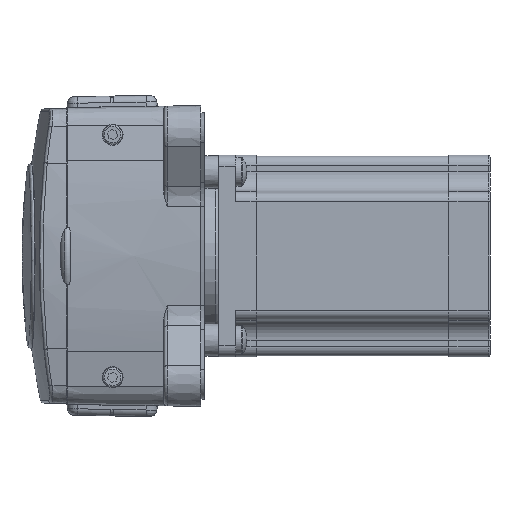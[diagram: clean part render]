
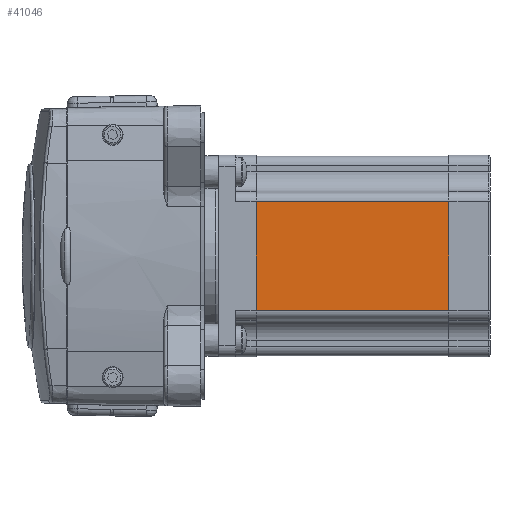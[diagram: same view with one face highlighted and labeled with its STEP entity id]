
A CAD part, front view. The second image highlights one B-rep face of the part: STEP entity #41046.
In plain terms, the highlighted planar face has unit normal (0, -1, 0).
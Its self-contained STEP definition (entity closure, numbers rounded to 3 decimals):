
#928 = VECTOR ( 'NONE', #55043, 1000. ) ;
#4556 = DIRECTION ( 'NONE',  ( 0., 0., -1. ) ) ;
#6280 = VERTEX_POINT ( 'NONE', #18475 ) ;
#12678 = EDGE_CURVE ( 'NONE', #50019, #6280, #42735, .T. ) ;
#14464 = PLANE ( 'NONE',  #29705 ) ;
#16131 = VERTEX_POINT ( 'NONE', #66846 ) ;
#16382 = CARTESIAN_POINT ( 'NONE',  ( 44.2, -28., 15.25 ) ) ;
#18475 = CARTESIAN_POINT ( 'NONE',  ( 98.2, -28., 15.25 ) ) ;
#21056 = DIRECTION ( 'NONE',  ( 0., 0., 1. ) ) ;
#21816 = LINE ( 'NONE', #16382, #35016 ) ;
#25158 = DIRECTION ( 'NONE',  ( 1., 0., 0. ) ) ;
#26304 = CARTESIAN_POINT ( 'NONE',  ( -46.062, -28., -15.25 ) ) ;
#28942 = LINE ( 'NONE', #57489, #53611 ) ;
#29705 = AXIS2_PLACEMENT_3D ( 'NONE', #38094, #55828, #21056 ) ;
#31511 = CARTESIAN_POINT ( 'NONE',  ( -46.062, -28., 15.25 ) ) ;
#33814 = FACE_OUTER_BOUND ( 'NONE', #75027, .T. ) ;
#35016 = VECTOR ( 'NONE', #46938, 1000. ) ;
#38094 = CARTESIAN_POINT ( 'NONE',  ( -46.062, -28., 15.25 ) ) ;
#38327 = ORIENTED_EDGE ( 'NONE', *, *, #75432, .T. ) ;
#41046 = ADVANCED_FACE ( 'NONE', ( #33814 ), #14464, .T. ) ;
#42735 = LINE ( 'NONE', #31511, #928 ) ;
#44700 = EDGE_CURVE ( 'NONE', #6280, #65886, #28942, .T. ) ;
#46399 = EDGE_CURVE ( 'NONE', #16131, #65886, #67650, .T. ) ;
#46938 = DIRECTION ( 'NONE',  ( 0., 0., -1. ) ) ;
#48064 = CARTESIAN_POINT ( 'NONE',  ( 44.2, -28., 15.25 ) ) ;
#50019 = VERTEX_POINT ( 'NONE', #48064 ) ;
#51387 = CARTESIAN_POINT ( 'NONE',  ( 98.2, -28., -15.25 ) ) ;
#53611 = VECTOR ( 'NONE', #4556, 1000. ) ;
#55043 = DIRECTION ( 'NONE',  ( 1., 0., 0. ) ) ;
#55828 = DIRECTION ( 'NONE',  ( 0., -1., 0. ) ) ;
#57489 = CARTESIAN_POINT ( 'NONE',  ( 98.2, -28., 15.25 ) ) ;
#58950 = VECTOR ( 'NONE', #25158, 1000. ) ;
#61682 = ORIENTED_EDGE ( 'NONE', *, *, #46399, .T. ) ;
#65886 = VERTEX_POINT ( 'NONE', #51387 ) ;
#66155 = ORIENTED_EDGE ( 'NONE', *, *, #12678, .F. ) ;
#66846 = CARTESIAN_POINT ( 'NONE',  ( 44.2, -28., -15.25 ) ) ;
#67650 = LINE ( 'NONE', #26304, #58950 ) ;
#71525 = ORIENTED_EDGE ( 'NONE', *, *, #44700, .F. ) ;
#75027 = EDGE_LOOP ( 'NONE', ( #38327, #61682, #71525, #66155 ) ) ;
#75432 = EDGE_CURVE ( 'NONE', #50019, #16131, #21816, .T. ) ;
